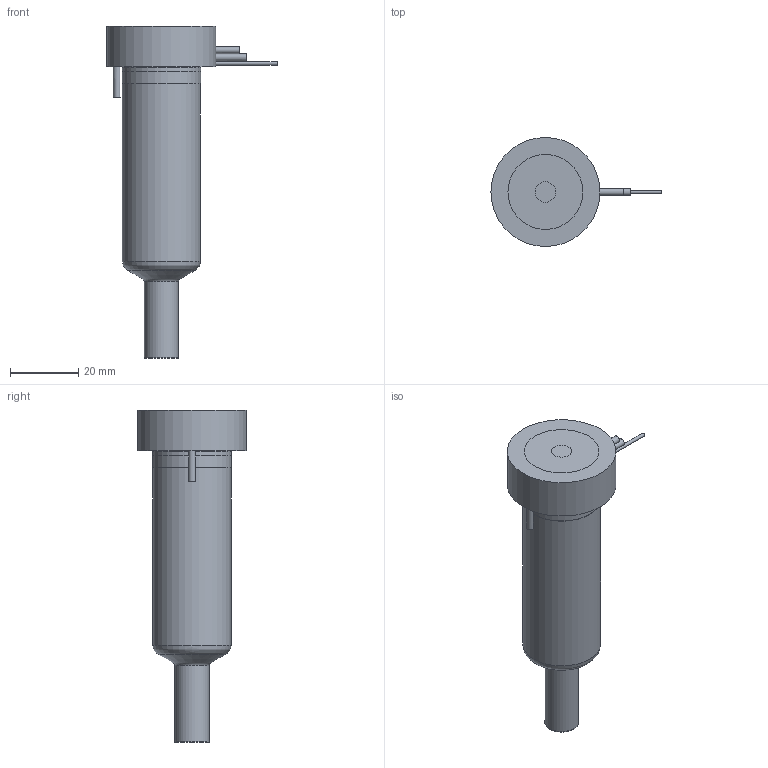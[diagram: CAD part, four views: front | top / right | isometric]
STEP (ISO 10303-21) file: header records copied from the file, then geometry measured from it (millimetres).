
FILE_DESCRIPTION(/* description */ (''),/* implementation_level */ '2;1');
FILE_NAME(/* name */ 'MXYCN13065P4U_200C_a',/* time_stamp */ '2016-02-29T10:16:45+13:00',/* author */ (''),/* organization */ (''),/* preprocessor_version */ 'ST-DEVELOPER v9',/* originating_system */ 'UGS - NX 4.0',/* authorisation */ '');
FILE_SCHEMA (('CONFIG_CONTROL_DESIGN'));
Length unit declared in the file: millimetre
Products named in the file (1): mattB1369xuc
Bounding box: 49.95 x 32 x 97.44 mm (x, y, z)
Volume: 60509.6 mm3; surface area: 15164.3 mm2
Topology: 2 solids, 2 shells, 71 faces, 156 edges, 102 vertices
Faces by surface type: plane 31, cylinder 26, torus 7, cone 5, bspline 1, sphere 1
Full cylindrical faces by diameter (mm): 1 x2, 1.3 x1, 2 x3, 4 x1, 6 x1, 9.61 x1, 9.995 x2, 12.6 x1, 18.8 x1, 22.9 x1, 23 x2, 32 x1
Entity records: 2121 total; most frequent: CARTESIAN_POINT 614, DIRECTION 314, ORIENTED_EDGE 234, AXIS2_PLACEMENT_3D 141, EDGE_CURVE 117, EDGE_LOOP 114, VERTEX_POINT 91, ADVANCED_FACE 71
